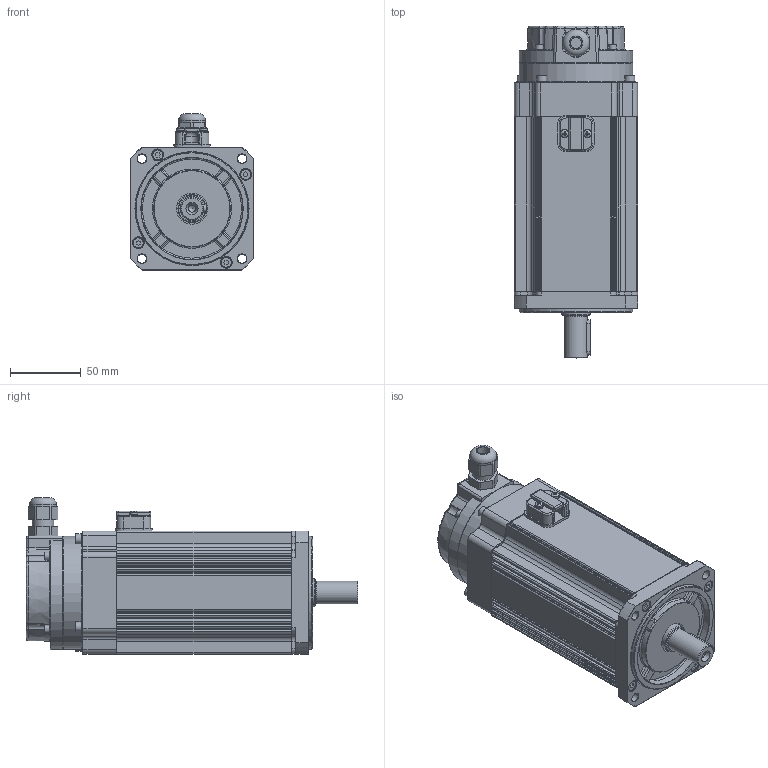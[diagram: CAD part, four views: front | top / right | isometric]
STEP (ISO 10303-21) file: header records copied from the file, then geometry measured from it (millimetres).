
FILE_DESCRIPTION(('STEP AP203'),'1');
FILE_NAME('B401E-D4RB.stp','2021-04-14T07:18:00',(' '),(' '),'Spatial InterOp 3D',' ',' ');
FILE_SCHEMA(('CONFIG_CONTROL_DESIGN'));
Length unit declared in the file: millimetre
Products named in the file (1): B401E-D4RB
Bounding box: 87 x 234.5 x 110.5 mm (x, y, z)
Volume: 1259278.4 mm3; surface area: 109783.8 mm2
Topology: 1 solids, 9 shells, 1740 faces, 4137 edges, 2427 vertices
Faces by surface type: plane 787, cone 389, cylinder 367, torus 112, bspline 55, sphere 23, revolution 7
Full cylindrical faces by diameter (mm): 2.5 x2, 3 x6, 3.3 x9, 3.5 x4, 4 x8, 4.5 x8, 5 x1, 5.5 x4, 5.6 x2, 6.5 x4, 7 x8, 8 x5, 8.5 x1, 9 x1, 15.2 x1, 16 x1, 19 x1, 19.8 x1, 22 x1, 72 x1, 80 x2
Entity records: 55591 total; most frequent: CARTESIAN_POINT 16534, DIRECTION 8459, ORIENTED_EDGE 7768, EDGE_CURVE 3884, AXIS2_PLACEMENT_3D 3192, VERTEX_POINT 2348, LINE 2068, VECTOR 2068
